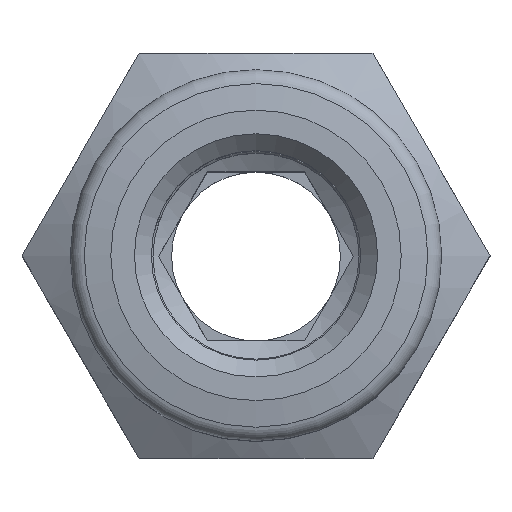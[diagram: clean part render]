
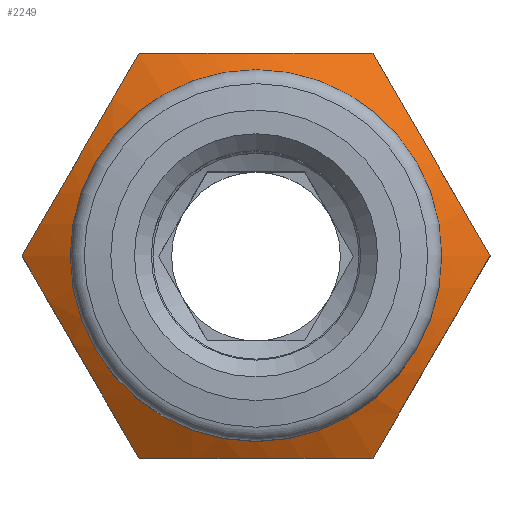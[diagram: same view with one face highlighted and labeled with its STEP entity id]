
A CAD part, top view. The second image highlights one B-rep face of the part: STEP entity #2249.
In plain terms, the highlighted conical face has half-angle 60 degrees and reference radius 11.812 mm.
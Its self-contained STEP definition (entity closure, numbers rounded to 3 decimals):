
#1066=HYPERBOLA('',#2127,3.464,6.);
#1067=HYPERBOLA('',#2128,3.464,6.);
#1068=HYPERBOLA('',#2129,3.464,6.);
#1069=HYPERBOLA('',#2130,3.464,6.);
#1070=HYPERBOLA('',#2131,3.464,6.);
#1071=HYPERBOLA('',#2132,3.464,6.);
#1111=ORIENTED_EDGE('',*,*,#1380,.F.);
#1112=ORIENTED_EDGE('',*,*,#1381,.F.);
#1113=ORIENTED_EDGE('',*,*,#1382,.F.);
#1114=ORIENTED_EDGE('',*,*,#1383,.F.);
#1115=ORIENTED_EDGE('',*,*,#1384,.F.);
#1116=ORIENTED_EDGE('',*,*,#1385,.F.);
#1117=ORIENTED_EDGE('',*,*,#1386,.F.);
#1270=CIRCLE('',#2125,5.5);
#1316=VERTEX_POINT('',#1931);
#1317=VERTEX_POINT('',#1934);
#1318=VERTEX_POINT('',#1935);
#1319=VERTEX_POINT('',#1937);
#1320=VERTEX_POINT('',#1939);
#1321=VERTEX_POINT('',#1941);
#1322=VERTEX_POINT('',#1943);
#1380=EDGE_CURVE('',#1316,#1316,#1270,.T.);
#1381=EDGE_CURVE('',#1317,#1318,#1066,.T.);
#1382=EDGE_CURVE('',#1319,#1317,#1067,.T.);
#1383=EDGE_CURVE('',#1320,#1319,#1068,.T.);
#1384=EDGE_CURVE('',#1321,#1320,#1069,.T.);
#1385=EDGE_CURVE('',#1322,#1321,#1070,.T.);
#1386=EDGE_CURVE('',#1318,#1322,#1071,.T.);
#1474=EDGE_LOOP('',(#1111));
#1475=EDGE_LOOP('',(#1112,#1113,#1114,#1115,#1116,#1117));
#1558=FACE_BOUND('',#1474,.T.);
#1559=FACE_BOUND('',#1475,.T.);
#1674=DIRECTION('',(0.,1.,0.));
#1675=DIRECTION('',(5.5,0.,0.));
#1676=DIRECTION('',(0.,-1.,0.));
#1677=DIRECTION('',(1.,0.,0.));
#1678=DIRECTION('',(-0.866,0.,-0.5));
#1679=DIRECTION('',(0.,-1.,0.));
#1680=DIRECTION('',(-0.866,0.,0.5));
#1681=DIRECTION('',(0.,-1.,0.));
#1682=DIRECTION('',(0.,0.,1.));
#1683=DIRECTION('',(0.,-1.,0.));
#1684=DIRECTION('',(0.866,0.,0.5));
#1685=DIRECTION('',(0.,-1.,0.));
#1686=DIRECTION('',(0.866,0.,-0.5));
#1687=DIRECTION('',(0.,-1.,0.));
#1688=DIRECTION('',(0.,0.,-1.));
#1689=DIRECTION('',(0.,-1.,0.));
#1931=CARTESIAN_POINT('',(14.338,20.2,0.));
#1932=CARTESIAN_POINT('',(8.838,20.2,0.));
#1933=CARTESIAN_POINT('',(8.838,16.555,0.));
#1934=CARTESIAN_POINT('',(15.766,19.375,0.));
#1935=CARTESIAN_POINT('',(12.302,19.375,6.));
#1936=CARTESIAN_POINT('',(14.034,23.375,3.));
#1937=CARTESIAN_POINT('',(12.302,19.375,-6.));
#1938=CARTESIAN_POINT('',(14.034,23.375,-3.));
#1939=CARTESIAN_POINT('',(5.374,19.375,-6.));
#1940=CARTESIAN_POINT('',(8.838,23.375,-6.));
#1941=CARTESIAN_POINT('',(1.91,19.375,0.));
#1942=CARTESIAN_POINT('',(3.642,23.375,-3.));
#1943=CARTESIAN_POINT('',(5.374,19.375,6.));
#1944=CARTESIAN_POINT('',(3.642,23.375,3.));
#1945=CARTESIAN_POINT('',(8.838,23.375,6.));
#2125=AXIS2_PLACEMENT_3D('',#1932,#1674,#1675);
#2126=AXIS2_PLACEMENT_3D('',#1933,#1676,#1677);
#2127=AXIS2_PLACEMENT_3D('',#1936,#1678,#1679);
#2128=AXIS2_PLACEMENT_3D('',#1938,#1680,#1681);
#2129=AXIS2_PLACEMENT_3D('',#1940,#1682,#1683);
#2130=AXIS2_PLACEMENT_3D('',#1942,#1684,#1685);
#2131=AXIS2_PLACEMENT_3D('',#1944,#1686,#1687);
#2132=AXIS2_PLACEMENT_3D('',#1945,#1688,#1689);
#2225=CONICAL_SURFACE('',#2126,11.812,60.);
#2249=ADVANCED_FACE('',(#1558,#1559),#2225,.T.);
